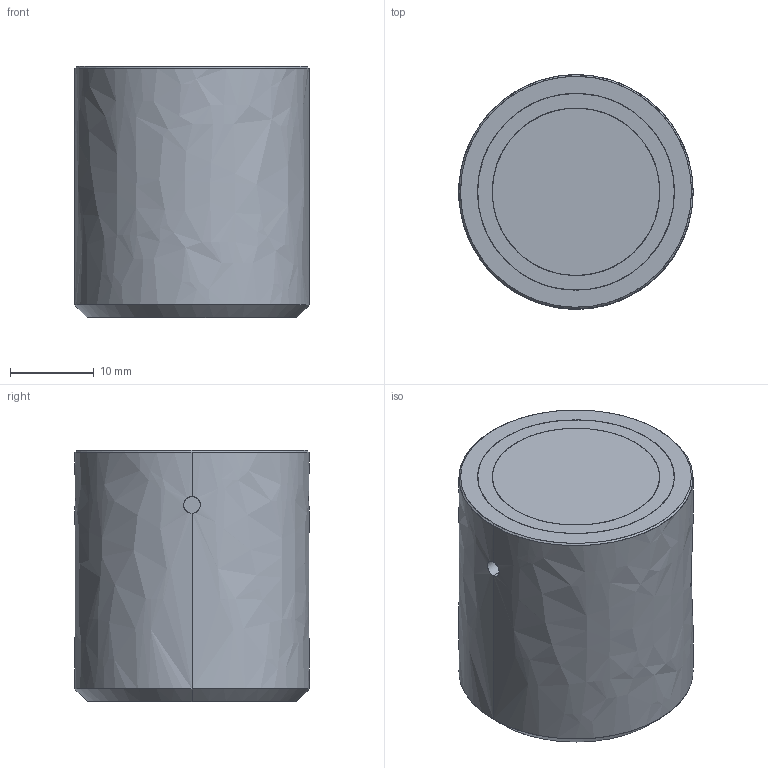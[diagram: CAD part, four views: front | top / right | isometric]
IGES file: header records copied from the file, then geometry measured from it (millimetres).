
Global section: file name: E:\UnigraphicsGraphicData\MISUMI_PRESS-PARTS\IGES\3d_mg28_00557_r00.igs; native system: NX V5.0; preprocessor: UGS NX IGES V5.0; author: MISUMI; date: 20110105.161401; units: millimetre
Bounding box: 28 x 28 x 30 mm (x, y, z)
Surface area: 8174.8 mm2 (no closed solid volume)
Topology: 0 solids, 0 shells, 35 faces, 294 edges, 294 vertices
Faces by surface type: bspline 35
